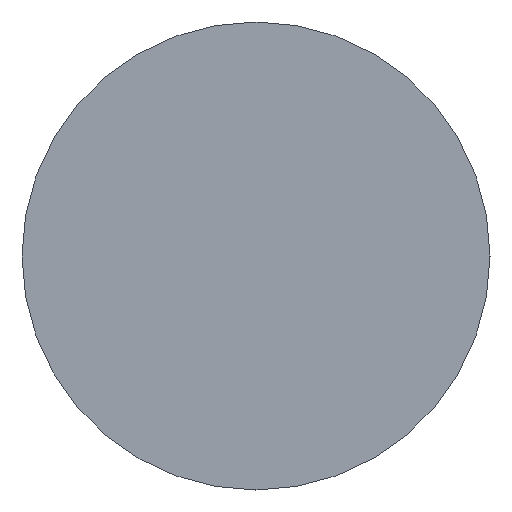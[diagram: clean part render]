
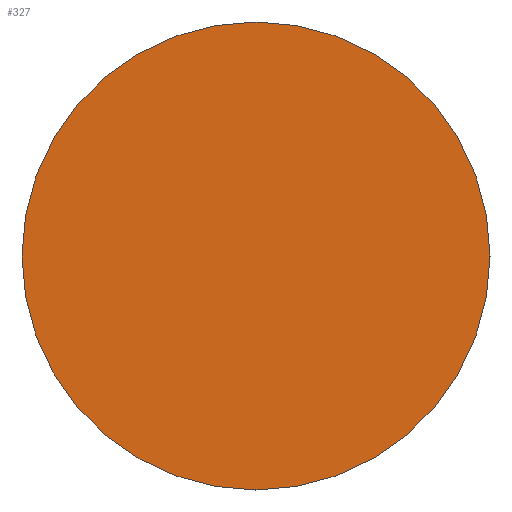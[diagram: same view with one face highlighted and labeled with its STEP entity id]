
A CAD part, left-side view. The second image highlights one B-rep face of the part: STEP entity #327.
In plain terms, the highlighted planar face has unit normal (-1, 0, 0).
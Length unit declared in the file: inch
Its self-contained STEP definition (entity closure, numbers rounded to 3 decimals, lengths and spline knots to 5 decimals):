
#7 = PLANE ( 'NONE',  #488 ) ;
#15 = EDGE_CURVE ( 'NONE', #20, #267, #259, .T. ) ;
#20 = VERTEX_POINT ( 'NONE', #103 ) ;
#44 = FACE_OUTER_BOUND ( 'NONE', #280, .T. ) ;
#45 = DIRECTION ( 'NONE',  ( 1., 0., 0. ) ) ;
#47 = ORIENTED_EDGE ( 'NONE', *, *, #15, .T. ) ;
#49 = CARTESIAN_POINT ( 'NONE',  ( -6., 0., -0.1875 ) ) ;
#103 = CARTESIAN_POINT ( 'NONE',  ( -6., 0., 0.1875 ) ) ;
#138 = CARTESIAN_POINT ( 'NONE',  ( -6., 0., 0. ) ) ;
#152 = CARTESIAN_POINT ( 'NONE',  ( -6., 0.1875, 0. ) ) ;
#167 = AXIS2_PLACEMENT_3D ( 'NONE', #493, #446, #216 ) ;
#212 = ORIENTED_EDGE ( 'NONE', *, *, #490, .T. ) ;
#216 = DIRECTION ( 'NONE',  ( 0., 0., 1. ) ) ;
#259 = CIRCLE ( 'NONE', #329, 0.1875 ) ;
#267 = VERTEX_POINT ( 'NONE', #49 ) ;
#278 = DIRECTION ( 'NONE',  ( 0., 0., -1. ) ) ;
#280 = EDGE_LOOP ( 'NONE', ( #47, #212 ) ) ;
#297 = DIRECTION ( 'NONE',  ( 0., 0., 1. ) ) ;
#327 = ADVANCED_FACE ( 'NONE', ( #44 ), #7, .F. ) ;
#329 = AXIS2_PLACEMENT_3D ( 'NONE', #138, #399, #297 ) ;
#385 = CIRCLE ( 'NONE', #167, 0.1875 ) ;
#399 = DIRECTION ( 'NONE',  ( -1., 0., 0. ) ) ;
#446 = DIRECTION ( 'NONE',  ( -1., 0., 0. ) ) ;
#488 = AXIS2_PLACEMENT_3D ( 'NONE', #152, #45, #278 ) ;
#490 = EDGE_CURVE ( 'NONE', #267, #20, #385, .T. ) ;
#493 = CARTESIAN_POINT ( 'NONE',  ( -6., 0., 0. ) ) ;
